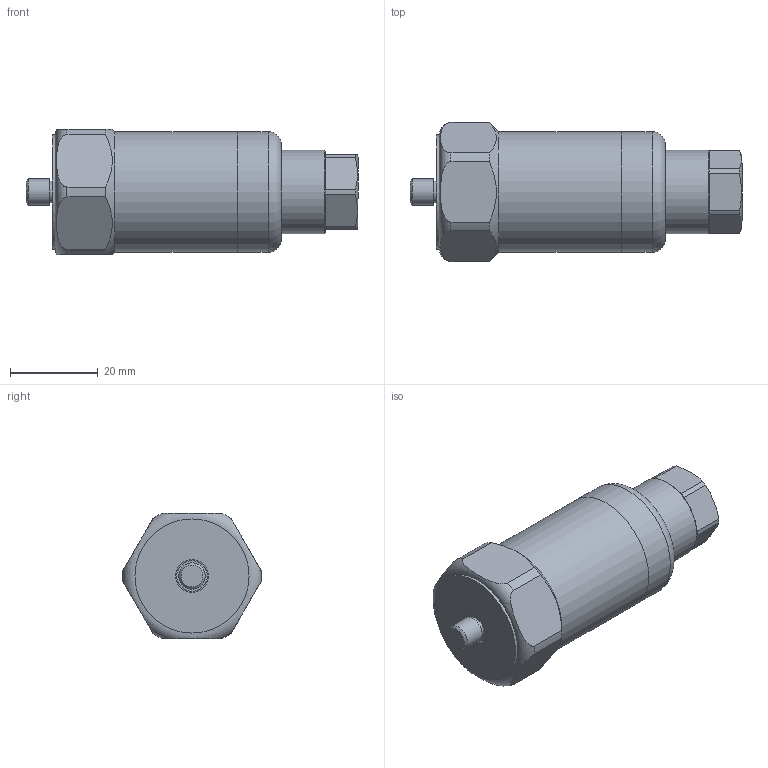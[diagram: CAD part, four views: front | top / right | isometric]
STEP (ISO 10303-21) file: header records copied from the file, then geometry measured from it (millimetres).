
FILE_DESCRIPTION(/* description */ (''),/* implementation_level */ '2;1');
FILE_NAME(/* name */ 'Z:\Engineering\Drawings\3D Library\Assemblies\Website\420 Velocity\HS-420XXX0106.stp',/* time_stamp */ '2023-05-03T13:43:30+01:00',/* author */ ('Ricardo.Peneda'),/* organization */ (''),/* preprocessor_version */ 'ST-DEVELOPER v18.1',/* originating_system */ 'Autodesk Inventor 2021',/* authorisation */ '');
FILE_SCHEMA (('AUTOMOTIVE_DESIGN { 1 0 10303 214 3 1 1 }'));
Length unit declared in the file: inch
Products named in the file (1): HS-420XXX0106_Shrinkwrap_1
Bounding box: 75.68 x 31.69 x 28.5 mm (x, y, z)
Volume: 17431.8 mm3; surface area: 13218.3 mm2
Topology: 4 solids, 4 shells, 80 faces, 212 edges, 155 vertices
Faces by surface type: plane 35, cylinder 34, cone 8, torus 3
Full cylindrical faces by diameter (mm): 5 x2, 6 x1, 6.3 x1, 6.35 x1, 7 x1, 7.5 x1, 9 x1, 11.647 x1, 12 x1, 13.882 x1, 14 x1, 15 x2, 18 x1, 19 x1, 20 x1, 25.3 x2, 26 x1, 27.5 x2
Entity records: 2873 total; most frequent: CARTESIAN_POINT 624, DIRECTION 486, ORIENTED_EDGE 424, AXIS2_PLACEMENT_3D 213, EDGE_CURVE 212, VERTEX_POINT 155, CIRCLE 132, EDGE_LOOP 99
